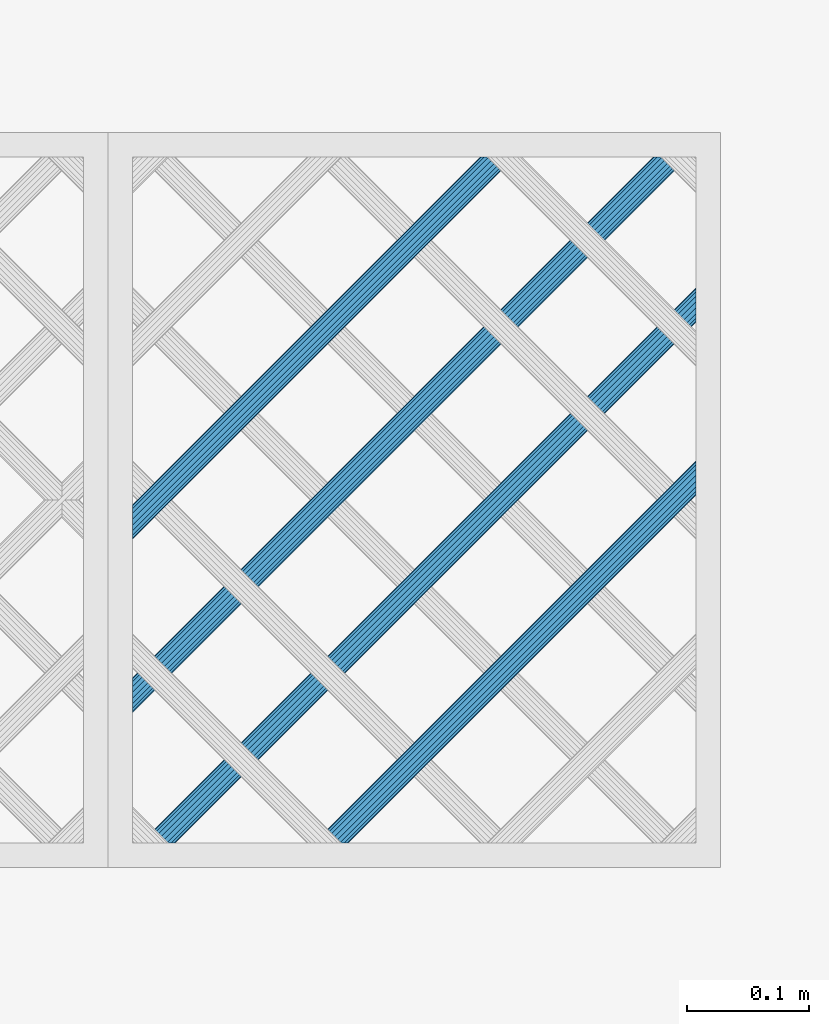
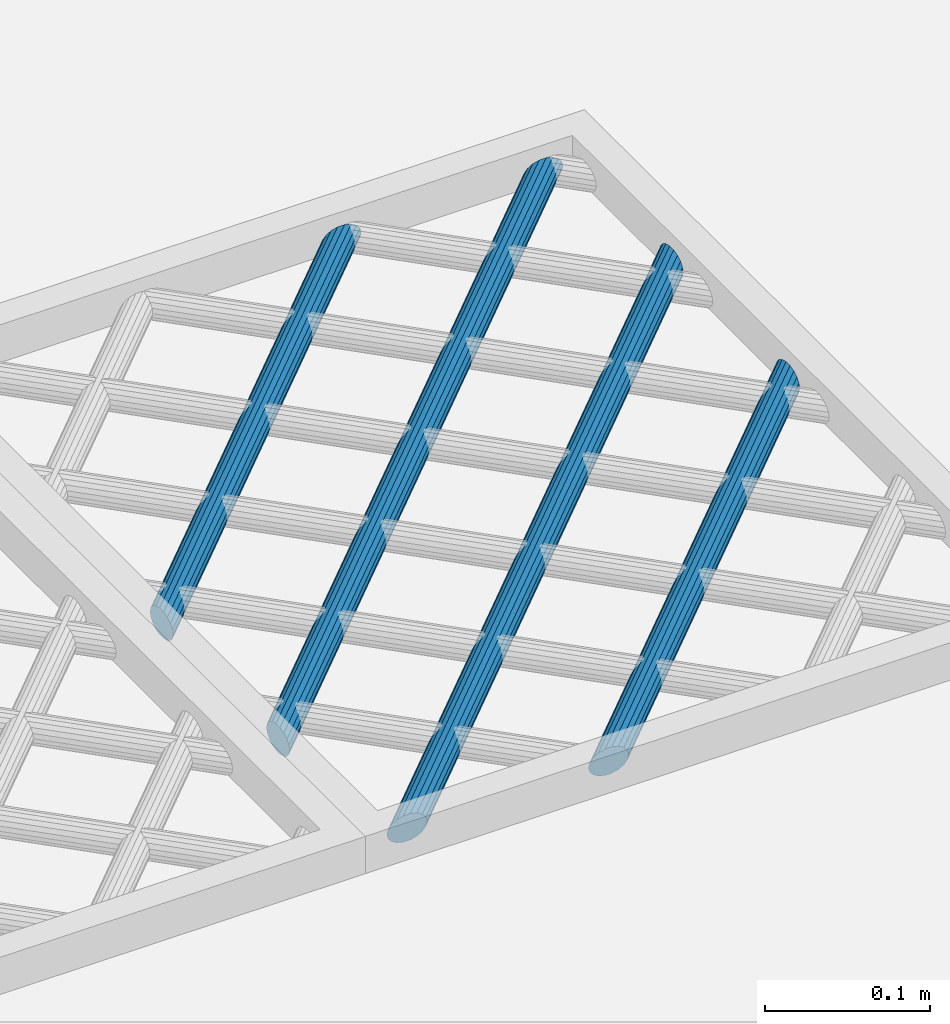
# One storey, part 76 of 133: 4 members, 1 element without a shape of its own.
"""IFC2X3 building model written with IfcOpenShell, lengths in centimetres."""

import ifcopenshell
import ifcopenshell.guid

model = None  # the IFC model being written
_history = None  # IfcOwnerHistory: only IFC2X3 demands one
_inside = {}  # id of a spatial element -> (the spatial element, [elements in it])
_under = {}  # id of a project, library or spatial element -> (it, [spatial elements below it])
_declared = {}  # id of a project -> (the project, [libraries it declares])
_typed = {}  # id of a type object -> (the type object, [elements of that type])
_made_of = {}  # id of a material, layer set ... -> (it, [elements and type objects made of it])


def new_model(schema):
    """Start an empty IFC model of exactly this schema.

    Asked for "IFC4X3", IfcOpenShell would pick the latest addendum, in which some entities
    have other attributes; the version numbers below select the first issue.
    IFC2X3 requires an IfcOwnerHistory on every rooted entity: one is made here for all.
    """
    global model, _history
    if schema == "IFC4X3":
        model = ifcopenshell.file(schema_version=(4, 3, 0, 0))
    else:
        model = ifcopenshell.file(schema=schema)
    _inside.clear()
    _under.clear()
    _declared.clear()
    _typed.clear()
    _made_of.clear()
    _history = None
    if model.schema == "IFC2X3":
        org = make("IfcOrganization", Name="unknown")
        user = make(
            "IfcPersonAndOrganization",
            ThePerson=make("IfcPerson", FamilyName="unknown"),
            TheOrganization=org,
        )
        app = make(
            "IfcApplication",
            ApplicationDeveloper=org,
            Version="unknown",
            ApplicationFullName="unknown",
            ApplicationIdentifier="unknown",
        )
        _history = make(
            "IfcOwnerHistory",
            OwningUser=user,
            OwningApplication=app,
            ChangeAction="ADDED",
            CreationDate=0,
        )
    return model


def make(cls, **values):
    """One entity of the class cls with the attributes given. An attribute that is None is left unset."""
    return model.create_entity(
        cls, **{name: value for name, value in values.items() if value is not None}
    )


def entity(cls, *values):
    """Any entity or typed value of the class cls, its attributes in the order of the schema. None: left unset."""
    e = model.create_entity(cls)
    for i, value in enumerate(values):
        if value is not None:
            e[i] = value
    return e


def rooted(cls, **values):
    """An entity with a GlobalId (a new one), such as an element, a storey or a relation."""
    return make(cls, GlobalId=ifcopenshell.guid.new(), OwnerHistory=_history, **values)


def si_unit(unit_type, name, prefix=None):
    """IfcSIUnit, for example si_unit("LENGTHUNIT", "METRE", prefix="MILLI")."""
    return make("IfcSIUnit", UnitType=unit_type, Prefix=prefix, Name=name)


def converted_unit(unit_type, name, factor, base, dimensions=None, offset=None):
    """IfcConversionBasedUnit, such as the inch: factor (a typed value) times the base unit."""
    return make(
        "IfcConversionBasedUnit"
        if offset is None
        else "IfcConversionBasedUnitWithOffset",
        ConversionOffset=offset,
        Dimensions=None
        if dimensions is None
        else entity("IfcDimensionalExponents", *dimensions),
        UnitType=unit_type,
        Name=name,
        ConversionFactor=make(
            "IfcMeasureWithUnit", ValueComponent=factor, UnitComponent=base
        ),
    )


def assignment(units):
    """IfcUnitAssignment: the units of a project."""
    return None if units is None else make("IfcUnitAssignment", Units=units)


def point(xyz):
    """IfcCartesianPoint."""
    return None if xyz is None else make("IfcCartesianPoint", Coordinates=xyz)


def direction(xyz):
    """IfcDirection."""
    return None if xyz is None else make("IfcDirection", DirectionRatios=xyz)


def frame(location, z_axis=None, x_axis=None):
    """IfcAxis2Placement3D, a coordinate frame: its origin and axes. An axis left out is left unset."""
    return make(
        "IfcAxis2Placement3D",
        Location=point(location),
        Axis=direction(z_axis),
        RefDirection=direction(x_axis),
    )


def origin():
    """The frame at (0, 0, 0) with its axes left unset."""
    return frame((0.0, 0.0, 0.0))


def origin_with_axes():
    """The frame at (0, 0, 0) with the z axis (0, 0, 1) and the x axis (1, 0, 0) written out."""
    return frame((0.0, 0.0, 0.0), z_axis=(0.0, 0.0, 1.0), x_axis=(1.0, 0.0, 0.0))


def place(relative_to, where):
    """IfcLocalPlacement: puts the frame where relative to a parent placement (None: the world)."""
    return make(
        "IfcLocalPlacement", PlacementRelTo=relative_to, RelativePlacement=where
    )


def context(
    kind, dimensions, precision=None, world=None, true_north=None, identifier=None
):
    """IfcGeometricRepresentationContext, for example the 3D "Model" context."""
    return make(
        "IfcGeometricRepresentationContext",
        ContextIdentifier=identifier,
        ContextType=kind,
        CoordinateSpaceDimension=dimensions,
        Precision=precision,
        WorldCoordinateSystem=world,
        TrueNorth=true_north,
    )


def subcontext(parent, identifier, kind, view, scale=None):
    """IfcGeometricRepresentationSubContext, for example "Body" below "Model"."""
    return make(
        "IfcGeometricRepresentationSubContext",
        ContextIdentifier=identifier,
        ContextType=kind,
        ParentContext=parent,
        TargetScale=scale,
        TargetView=view,
    )


def project(units=None, contexts=None):
    """IfcProject with its units and contexts."""
    return rooted(
        "IfcProject",
        Name="project",
        RepresentationContexts=contexts,
        UnitsInContext=assignment(units),
    )


def spatial(cls, under=None, at=None, **own):
    """A site, building, storey or space (cls), placed at a placement, below another one or the project."""
    s = rooted(cls, ObjectPlacement=at, **own)
    if under is not None:
        _under.setdefault(under.id(), (under, []))[1].append(s)
    return s


def faces_of(points, faces, orient=None, outer=None):
    """IfcFace entities. A face is a list of loops; a loop is a list of indices into points, from 0.

    orient and outer hold one flag for each loop. By default every Orientation is true, the
    first loop of a face is its IfcFaceOuterBound and the others are IfcFaceBound.
    """
    made = []
    for i, loops in enumerate(faces):
        bounds = []
        for j, loop in enumerate(loops):
            is_outer = j == 0 if outer is None else outer[i][j]
            bounds.append(
                make(
                    "IfcFaceOuterBound" if is_outer else "IfcFaceBound",
                    Bound=make("IfcPolyLoop", Polygon=[points[k] for k in loop]),
                    Orientation=True if orient is None else orient[i][j],
                )
            )
        made.append(make("IfcFace", Bounds=bounds))
    return made


def faceted_brep(points, faces, orient=None, outer=None, voids=None):
    """IfcFacetedBrep: a solid bounded by flat faces; with voids (closed shells), ...WithVoids."""
    shared = [point(p) for p in points]
    hull = make("IfcClosedShell", CfsFaces=faces_of(shared, faces, orient, outer))
    if voids is None:
        return make("IfcFacetedBrep", Outer=hull)
    return make(
        "IfcFacetedBrepWithVoids",
        Outer=hull,
        Voids=[
            make(cls, CfsFaces=faces_of(shared, fs, o, b)) for cls, fs, o, b in voids
        ],
    )


def shape(context_of_items, identifier, shape_type, items):
    """IfcShapeRepresentation: the items that make up one representation, for example the "Body"."""
    return make(
        "IfcShapeRepresentation",
        ContextOfItems=context_of_items,
        RepresentationIdentifier=identifier,
        RepresentationType=shape_type,
        Items=items,
    )


def material(Name=None, Category=None):
    """IfcMaterial."""
    return make("IfcMaterial", Name=Name, Category=Category)


def made_of(thing, what):
    """Note that an element or type object is made of a material, layer set ...; save() writes the relation."""
    if what is not None:
        _made_of.setdefault(what.id(), (what, []))[1].append(thing)
    return thing


def type_object(cls, material=None, **own):
    """A type object (cls), such as IfcWallType, which elements share."""
    return made_of(rooted(cls, **own), material)


def element(
    cls,
    number,
    at=None,
    inside=None,
    cuts=None,
    type_object=None,
    material=None,
    context=None,
    identifier="Body",
    shape_type=None,
    held_by="IfcProductDefinitionShape",
    body=None,
    shapes=None,
    **own,
):
    """One element of the class cls, such as IfcWall. Its Tag is "e" and its number.

    at: its placement. inside: the storey or other place that contains it. cuts: it is an
    opening in that element (IfcRelVoidsElement). A single representation is given by context,
    identifier, shape_type and body (its items); several are given by shapes. held_by: the class
    of the entity that holds the representations. save() writes the other relations.
    """
    e = rooted(cls, Tag="e%d" % number, ObjectPlacement=at, **own)
    if body is not None:
        shapes = [shape(context, identifier, shape_type, body)]
    if shapes is not None:
        e.Representation = make(held_by, Representations=shapes)
    if inside is not None:
        _inside.setdefault(inside.id(), (inside, []))[1].append(e)
    if cuts is not None:
        rooted(
            "IfcRelVoidsElement", RelatingBuildingElement=cuts, RelatedOpeningElement=e
        )
    if type_object is not None:
        _typed.setdefault(type_object.id(), (type_object, []))[1].append(e)
    return made_of(e, material)


def aggregate(whole, parts):
    """IfcRelAggregates: a whole, such as a stair, and the parts it consists of."""
    return rooted("IfcRelAggregates", RelatingObject=whole, RelatedObjects=parts)


def save(model, path):
    """Write the relations noted so far, then the file.

    IfcRelAggregates (storeys below a building ...), IfcRelContainedInSpatialStructure (elements
    in a storey), IfcRelDefinesByType, IfcRelAssociatesMaterial and IfcRelDeclares: one each for
    every whole, place, type object, material and project.
    """
    for whole, parts in _under.values():
        aggregate(whole, parts)
    for where, things in _inside.values():
        rooted(
            "IfcRelContainedInSpatialStructure",
            RelatedElements=things,
            RelatingStructure=where,
        )
    for kind, things in _typed.values():
        rooted("IfcRelDefinesByType", RelatedObjects=things, RelatingType=kind)
    for what, things in _made_of.values():
        rooted("IfcRelAssociatesMaterial", RelatedObjects=things, RelatingMaterial=what)
    for by, libraries in _declared.values():
        rooted("IfcRelDeclares", RelatingContext=by, RelatedDefinitions=libraries)
    model.write(path)


model = new_model("IFC2X3")

# Units and contexts
model_context = context("Model", 3, precision=0.0001, world=origin(), true_north=direction((0.225632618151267, 0.974212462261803, 0.0)))
body_context = subcontext(model_context, "Body", "Model", "MODEL_VIEW")
ifc_project = project(units=[si_unit("LENGTHUNIT", "METRE", prefix="CENTI"), si_unit("AREAUNIT", "SQUARE_METRE", prefix="CENTI"), si_unit("VOLUMEUNIT", "CUBIC_METRE", prefix="CENTI"), converted_unit("PLANEANGLEUNIT", "DEGREE", entity("IfcRatioMeasure", 0.0174532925), si_unit("PLANEANGLEUNIT", "RADIAN"), dimensions=[0, 0, 0, 0, 0, 0, 0])], contexts=[model_context])

# Site, building, storey
site_placement = place(None, origin_with_axes())
site = spatial("IfcSite", under=ifc_project, at=site_placement, Name="Default Site", CompositionType="ELEMENT")
building_placement = place(site_placement, origin_with_axes())
building = spatial("IfcBuilding", under=site, at=building_placement, Name="Default Building", CompositionType="ELEMENT")
storey_placement = place(building_placement, frame((0.0, 0.0, -291.400371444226), z_axis=(0.0, 0.0, 1.0), x_axis=(1.0, 0.0, 0.0)))
storey = spatial("IfcBuildingStorey", under=building, at=storey_placement, Name="Rez-de-Jardin", CompositionType="ELEMENT", Elevation=-291.400371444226)

# Assembly, members
building_element_proxy_type = type_object("IfcBuildingElementProxyType", Name="Type Object", PredefinedType="NOTDEFINED")
assembly_placement = place(storey_placement, frame((23.728219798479, 1298.33524038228, 113.0), z_axis=(0.0, 1.0, -2.38697950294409e-15), x_axis=(1.0, 0.0, 0.0)))
assembly = element("IfcElementAssembly", 1, at=assembly_placement, inside=storey, type_object=building_element_proxy_type, Name="Panneau 326485", ObjectType="Precast panel", PredefinedType="USERDEFINED")
ifc_material = material(Name="Aluminium satiné")
member_1_placement = place(assembly_placement, frame((33.1157237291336, 0.342020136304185, 57.9999983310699), z_axis=(1.16937776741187e-15, -1.43218081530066e-15, 1.0), x_axis=(0.632457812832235, -0.774594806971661, -1.84894192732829e-15)))
member_1 = element("IfcMember", 2, at=member_1_placement, material=ifc_material, Name="4294966882", context=body_context, shape_type="Brep", body=[
    faceted_brep([(5.55111512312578e-15, 5.55111512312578e-15, 5.55111512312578e-14), (-0.388290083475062, 5.55111512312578e-15, 5.4793225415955e-14), (-0.799166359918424, -0.150246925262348, 5.40335390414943e-14), (-1.18307325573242, -0.432621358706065, 5.33237174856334e-14), (-1.49370567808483, -0.813064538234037, 5.27493761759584e-14), (-1.69359804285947, -1.24569095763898, 5.23797868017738e-14), (-1.75863665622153, -1.67831484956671, 5.22595341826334e-14), (-1.68098087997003, -2.05876033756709, 5.2403115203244e-14), (-1.46999321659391, -2.3411352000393, 5.27932191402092e-14), (-1.15112683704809, -2.49138695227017, 5.33827845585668e-14), (-0.762836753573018, -2.49138695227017, 5.41007103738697e-14), (-0.351960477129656, -2.34114002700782, 5.48603967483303e-14), (0.0319483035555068, -2.05876328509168, 5.55702217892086e-14), (0.342580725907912, -1.67832010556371, 5.61445630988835e-14), (0.542471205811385, -1.24569599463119, 5.65141489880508e-14), (0.607509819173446, -0.813072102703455, 5.66344016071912e-14), (0.529854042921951, -0.432626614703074, 5.64908205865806e-14), (0.318866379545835, -0.150251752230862, 5.61007166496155e-14), (-19.414455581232, -24.3183913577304, -31.2010079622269), (-19.149528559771, -24.5347046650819, -31.1157196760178), (-18.9165556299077, -24.7249274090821, -30.8701455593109), (-18.7436367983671, -24.8661158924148, -30.4939031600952), (-18.6516285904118, -24.9412407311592, -30.0323694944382), (-18.6516285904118, -24.9412407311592, -29.5412182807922), (-18.7436367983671, -24.8661158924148, -29.0796875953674), (-18.9165556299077, -24.7249274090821, -28.7034451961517), (-19.149528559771, -24.5347046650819, -28.4578680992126), (-19.414455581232, -24.3183913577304, -28.3725827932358), (-19.679382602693, -24.1020780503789, -28.4578680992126), (-19.9123555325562, -23.9118553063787, -28.7034451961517), (-20.0852743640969, -23.770666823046, -29.0796875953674), (-20.1772825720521, -23.6955419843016, -29.5412182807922), (-20.1772825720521, -23.6955419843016, -30.0323694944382), (-20.0852743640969, -23.770666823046, -30.4939031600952), (-19.9123555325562, -23.9118553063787, -30.8701455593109), (-19.6793826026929, -24.1020780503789, -31.1157196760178), (0.318866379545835, -0.150251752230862, 5.55111512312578e-14), (0.529853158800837, -0.432627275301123, 1.07086518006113e-06), (-19.1495278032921, -24.5347040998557, -31.1157205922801), (-19.4144551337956, -24.3183910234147, -31.2010085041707), (0.529854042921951, -0.432626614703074, 5.55111512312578e-14), (0.607510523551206, -0.813071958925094, -5.56859133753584e-07), (-18.9165543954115, -24.7249271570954, -30.8701465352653), (-19.1495266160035, -24.534704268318, -31.1157212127), (0.607509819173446, -0.813072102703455, 5.55111512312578e-14), (0.542470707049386, -1.24569591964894, 2.57365122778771e-07), (-18.7436368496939, -24.8661158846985, -30.4939031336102), (-18.9165551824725, -24.7249274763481, -30.8701457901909), (0.542471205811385, -1.24569599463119, 5.55111512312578e-14), (0.342580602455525, -1.67832004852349, 3.38954203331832e-08), (-18.6516278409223, -24.9412410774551, -30.0323697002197), (-18.743636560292, -24.8661160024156, -30.4939032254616), (0.342580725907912, -1.67832010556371, 5.55111512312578e-14), (0.0319483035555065, -2.05876328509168, 5.55111512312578e-14), (0.0319483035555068, -2.05876328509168, 5.55111512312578e-14), (-0.351960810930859, -2.34113957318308, -1.40415047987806e-07), (-18.7436372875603, -24.8661152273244, -29.0796878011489), (-18.6516291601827, -24.9412399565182, -29.5412185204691), (-0.351960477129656, -2.34114002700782, 5.55111512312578e-14), (-0.762836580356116, -2.4913874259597, 2.57365121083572e-07), (-18.9165556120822, -24.7249274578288, -28.7034451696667), (-18.7436369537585, -24.8661154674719, -29.0796878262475), (-0.762836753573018, -2.49138695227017, 5.55111512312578e-14), (-1.15112683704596, -2.49138623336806, -5.56859133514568e-07), (-19.1495285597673, -24.5347034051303, -28.457869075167), (-18.9165556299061, -24.7249268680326, -28.7034456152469), (-1.15112683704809, -2.49138695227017, 5.55111512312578e-14), (-1.46999368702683, -2.34113619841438, 1.07086517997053e-06), (-19.414455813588, -24.3183918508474, -28.3725822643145), (-19.1495283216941, -24.5347041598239, -28.4578686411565), (-1.46999321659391, -2.3411352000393, 5.55111512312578e-14), (-1.68097999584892, -2.05875967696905, -1.07086506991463e-06), (-19.6793812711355, -24.1020770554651, -28.4578697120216), (-19.4144551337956, -24.3183910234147, -28.3725833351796), (-1.68098087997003, -2.05876033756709, 5.55111512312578e-14), (-1.75863736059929, -1.67831499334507, 5.56859245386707e-07), (-19.9123557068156, -23.9118553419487, -28.7034450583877), (-19.6793820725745, -24.1020779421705, -28.4578685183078), (-1.75863665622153, -1.67831484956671, 5.55111512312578e-14), (-1.69359754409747, -1.24569103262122, -2.57365011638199e-07), (-20.0852734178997, -23.7706669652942, -29.0796880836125), (-19.912355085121, -23.9118553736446, -28.7034454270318), (-1.69359804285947, -1.24569095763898, 5.55111512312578e-14), (-1.49370618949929, -0.813064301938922, 1.40415160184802e-07), (-20.1772822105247, -23.6955421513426, -29.541218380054), (-20.0852741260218, -23.7706669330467, -29.0796876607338), (-1.49370567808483, -0.813064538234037, 5.55111512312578e-14), (-1.18307325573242, -0.432621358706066, 5.55111512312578e-14), (-1.18307325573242, -0.432621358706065, 5.55111512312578e-14), (-0.799166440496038, -0.150246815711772, -3.38953106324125e-08), (-20.0852746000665, -23.7706665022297, -30.493903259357), (-20.177283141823, -23.6955412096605, -30.0323697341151), (-0.799166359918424, -0.150246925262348, 5.55111512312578e-14), (-0.388290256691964, 4.73689531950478e-07, -2.57365009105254e-07), (-19.9123558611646, -23.9118544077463, -30.870146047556), (-20.0852745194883, -23.7706663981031, -30.4939033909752), (-0.388290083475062, 5.55111512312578e-15, 5.55111512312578e-14), (-2.12407422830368e-12, -7.18902105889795e-07, 5.56859244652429e-07), (-19.6793826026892, -24.1020767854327, -31.1157206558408), (-19.9123555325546, -23.9118547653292, -30.8701459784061), (0.31886684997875, -0.150250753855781, -1.07086507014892e-06), (-19.4144548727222, -24.3183898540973, -31.2010095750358), (-19.6793817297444, -24.102076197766, -31.1157216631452)], [[[0, 1, 2, 3, 4, 5, 6, 7, 8, 9, 10, 11, 12, 13, 14, 15, 16, 17]], [[18, 19, 20, 21, 22, 23, 24, 25, 26, 27, 28, 29, 30, 31, 32, 33, 34, 35]], [[36, 37, 38, 39]], [[40, 41, 42, 43]], [[44, 45, 46, 47]], [[48, 49, 50, 51]], [[52, 53, 23, 22]], [[54, 55, 56, 57]], [[58, 59, 60, 61]], [[62, 63, 64, 65]], [[66, 67, 68, 69]], [[70, 71, 72, 73]], [[74, 75, 76, 77]], [[78, 79, 80, 81]], [[82, 83, 84, 85]], [[86, 87, 32, 31]], [[88, 89, 90, 91]], [[92, 93, 94, 95]], [[96, 97, 98, 99]], [[0, 100, 101, 102]]]),
])
member_2_placement = place(assembly_placement, frame((47.2578585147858, 0.342020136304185, 57.9999983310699), z_axis=(1.16937776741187e-15, -1.43218081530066e-15, 1.0), x_axis=(0.632457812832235, -0.774594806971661, -1.84894192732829e-15)))
member_2 = element("IfcMember", 3, at=member_2_placement, material=ifc_material, Name="4294966881", context=body_context, shape_type="Brep", body=[
    faceted_brep([(5.55111512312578e-15, 1.66533453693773e-14, 7.7715611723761e-14), (-0.388290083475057, 1.66533453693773e-14, 7.69976859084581e-14), (-0.799166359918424, -0.150246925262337, 7.62379995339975e-14), (-1.18307325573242, -0.432621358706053, 7.55281779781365e-14), (-1.49370567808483, -0.813064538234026, 7.49538366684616e-14), (-1.6935961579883, -1.24568864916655, 7.45842507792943e-14), (-1.75863665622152, -1.6783148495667, 7.44639946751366e-14), (-1.68097899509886, -2.05875802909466, 7.46075791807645e-14), (-1.46999321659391, -2.3411352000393, 7.49976796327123e-14), (-1.15112495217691, -2.49138464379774, 7.55872485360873e-14), (-0.762836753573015, -2.49138695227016, 7.63051708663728e-14), (-0.351958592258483, -2.34113771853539, 7.70648607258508e-14), (0.0319483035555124, -2.05876328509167, 7.77746822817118e-14), (0.342580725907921, -1.6783201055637, 7.83490235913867e-14), (0.54247120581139, -1.24569599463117, 7.8718609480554e-14), (0.607509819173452, -0.813072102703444, 7.88388620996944e-14), (0.529854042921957, -0.432626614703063, 7.86952810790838e-14), (0.318868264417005, -0.150249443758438, 7.8305180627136e-14), (-28.3587592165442, -35.2728155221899, -45.3431442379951), (-28.0938321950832, -35.4891288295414, -45.257855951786), (-27.8608592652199, -35.6793515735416, -45.0122803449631), (-27.6879404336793, -35.8205400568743, -44.6360379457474), (-27.595932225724, -35.8956648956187, -44.1745057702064), (-27.595932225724, -35.8956648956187, -43.6833545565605), (-27.6879404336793, -35.8205400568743, -43.2218238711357), (-27.8608592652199, -35.6793515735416, -42.8455799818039), (-28.0938321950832, -35.4891288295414, -42.6000043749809), (-28.3587592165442, -35.2728155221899, -42.5147175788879), (-28.6236862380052, -35.0565022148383, -42.6000043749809), (-28.8566591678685, -34.8662794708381, -42.8455799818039), (-29.0295779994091, -34.7250909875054, -43.2218238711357), (-29.1215862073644, -34.649966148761, -43.6833545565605), (-29.1215862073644, -34.649966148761, -44.1745057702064), (-29.0295779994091, -34.7250909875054, -44.6360379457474), (-28.8566591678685, -34.8662794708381, -45.0122803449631), (-28.6236862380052, -35.0565022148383, -45.257855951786), (0.318868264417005, -0.150249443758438, 7.7715611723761e-14), (0.529854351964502, -0.432626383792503, -3.74318415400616e-07), (-28.0938308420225, -35.4891278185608, -45.2578575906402), (-28.358758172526, -35.2728147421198, -45.3431455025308), (0.529854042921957, -0.432626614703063, 7.7715611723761e-14), (0.607510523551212, -0.813071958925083, -5.56859111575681e-07), (-27.8608580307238, -35.6793513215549, -45.0122813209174), (-28.0938309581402, -35.4891285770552, -45.2578569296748), (0.607509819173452, -0.813072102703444, 7.7715611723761e-14), (0.542470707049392, -1.24569591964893, 2.57365144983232e-07), (-27.6879404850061, -35.820540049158, -44.6360379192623), (-27.8608588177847, -35.6793516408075, -45.0122805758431), (0.54247120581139, -1.24569599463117, 7.7715611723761e-14), (0.342580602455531, -1.67832004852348, 3.38954431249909e-08), (-27.5959317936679, -35.8956650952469, -44.1745058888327), (-27.6879401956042, -35.820540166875, -44.6360380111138), (0.342580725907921, -1.6783201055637, 7.7715611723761e-14), (0.0319483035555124, -2.05876328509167, 7.7715611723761e-14), (-0.351958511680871, -2.34113782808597, 3.3895443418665e-08), (-27.6879407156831, -35.8205396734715, -43.221823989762), (-27.5959325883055, -35.8956644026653, -43.6833547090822), (-0.351958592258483, -2.34113771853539, 7.7715611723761e-14), (-0.762836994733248, -2.49138629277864, -3.58314950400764e-07), (-27.8608596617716, -35.6793504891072, -42.8455805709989), (-27.6879407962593, -35.8205390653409, -43.2218244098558), (-0.762836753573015, -2.49138695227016, 7.7715611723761e-14), (-1.15112495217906, -2.49138536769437, 5.60727997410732e-07), (-28.0938321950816, -35.4891282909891, -42.6000047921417), (-27.8608592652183, -35.6793510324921, -42.845580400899), (-1.15112495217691, -2.49138464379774, 7.7715611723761e-14), (-1.46999305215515, -2.34113485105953, -3.74318417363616e-07), (-28.3587588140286, -35.272814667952, -42.5147184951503), (-28.0938316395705, -35.4891276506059, -42.6000056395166), (-1.46999321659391, -2.3411352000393, 7.7715611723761e-14), (-1.68097930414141, -2.05875826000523, 3.74318572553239e-07), (-28.6236855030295, -35.0565016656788, -42.6000052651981), (-28.3587587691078, -35.2728151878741, -42.5147181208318), (-1.68097899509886, -2.05875802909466, 7.7715611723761e-14), (-1.75863594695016, -1.67831470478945, -5.60727843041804e-07), (-28.8566579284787, -34.8662792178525, -42.845580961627), (-28.6236850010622, -35.0565019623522, -42.6000053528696), (-1.75863665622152, -1.6783148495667, 7.7715611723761e-14), (-1.69359685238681, -1.24568854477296, 3.58315105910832e-07), (-29.0295776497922, -34.7250910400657, -43.2218240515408), (-28.8566587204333, -34.8662795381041, -42.8455802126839), (-1.6935961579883, -1.24568864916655, 7.7715611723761e-14), (-1.49370555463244, -0.813064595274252, -3.38952877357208e-08), (-29.1215855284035, -34.6499664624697, -43.6833547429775), (-29.0295774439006, -34.7250912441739, -43.2218240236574), (-1.49370567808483, -0.813064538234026, 7.7715611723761e-14), (-1.18307325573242, -0.432621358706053, 7.7715611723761e-14), (-0.799166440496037, -0.150246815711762, -3.38952880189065e-08), (-29.0295782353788, -34.7250906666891, -44.6360380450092), (-29.1215865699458, -34.6499656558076, -44.1745059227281), (-0.799166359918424, -0.150246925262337, 7.7715611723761e-14), (-0.388290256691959, 4.73689544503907e-07, -2.5736498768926e-07), (-28.8566594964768, -34.8662785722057, -45.0122808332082), (-29.0295781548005, -34.7250905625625, -44.6360381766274), (-0.388290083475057, 1.66533453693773e-14, 7.7715611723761e-14), (-2.12407422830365e-12, -7.18902094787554e-07, 5.56859266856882e-07), (-28.6236862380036, -35.0565016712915, -45.2578563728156), (-28.8566591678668, -34.8662789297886, -45.0122807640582), (0.318868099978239, -0.150249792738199, 3.74318570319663e-07), (-28.3587588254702, -35.2728146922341, -45.3431451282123), (-28.6236856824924, -35.0565010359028, -45.2578572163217)], [[[0, 1, 2, 3, 4, 5, 6, 7, 8, 9, 10, 11, 12, 13, 14, 15, 16, 17]], [[18, 19, 20, 21, 22, 23, 24, 25, 26, 27, 28, 29, 30, 31, 32, 33, 34, 35]], [[36, 37, 38, 39]], [[40, 41, 42, 43]], [[44, 45, 46, 47]], [[48, 49, 50, 51]], [[52, 53, 23, 22]], [[53, 54, 55, 56]], [[57, 58, 59, 60]], [[61, 62, 63, 64]], [[65, 66, 67, 68]], [[69, 70, 71, 72]], [[73, 74, 75, 76]], [[77, 78, 79, 80]], [[81, 82, 83, 84]], [[85, 86, 32, 31]], [[86, 87, 88, 89]], [[90, 91, 92, 93]], [[94, 95, 96, 97]], [[0, 98, 99, 100]]]),
])
member_3_placement = place(assembly_placement, frame((47.9999989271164, 0.3420201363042, 44.6000069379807), z_axis=(0.999999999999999, 0.0, 0.0), x_axis=(0.0, -0.774598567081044, -0.632453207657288)))
member_3 = element("IfcMember", 4, at=member_3_placement, material=ifc_material, Name="4294966880", context=body_context, shape_type="Brep", body=[
    faceted_brep([(-1.49880108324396e-13, 6.66133814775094e-14, 0.0), (-0.38828819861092, 6.66133814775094e-14, 0.0), (-0.799165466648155, -0.150251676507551, 0.0), (-1.18307068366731, -0.432628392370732, 0.0), (-1.49370084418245, -0.813073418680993, 0.0), (-1.69358875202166, -1.24569871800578, 0.0), (-1.75862479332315, -1.67832299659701, 0.0), (-1.68096675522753, -2.05876802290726, 0.0), (-1.46997929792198, -2.34114393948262, 0.0), (-1.15111014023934, -2.49139148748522, 0.0), (-0.762820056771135, -2.4913891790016, 0.0), (-0.351944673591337, -2.3411398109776, 0.0), (0.031960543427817, -2.05876309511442, 0.0), (0.342590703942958, -1.67831806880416, 0.0), (0.542478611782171, -1.24569276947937, 0.0), (0.6075165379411, -0.81306618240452, 0.0), (0.529856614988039, -0.432623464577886, 0.0), (0.318869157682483, -0.150247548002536, 0.0), (27.2074393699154, 32.7815926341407, -42.5147175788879), (27.4723676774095, 32.5652809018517, -42.600005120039), (27.7053417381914, 32.3750595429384, -42.845580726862), (27.8782614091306, 32.2338720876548, -43.2218242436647), (27.9702700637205, 32.158747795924, -43.6833556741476), (27.9702700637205, 32.158747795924, -44.1745068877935), (27.8782614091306, 32.2338720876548, -44.6360379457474), (27.7053417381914, 32.3750595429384, -45.0122816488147), (27.4723676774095, 32.5652809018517, -45.2578572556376), (27.2074393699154, 32.7815926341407, -45.3431446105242), (26.9425110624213, 32.9979043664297, -45.2578572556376), (26.7095370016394, 33.188125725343, -45.0122816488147), (26.5366173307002, 33.3293131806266, -44.6360379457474), (26.4446086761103, 33.4044374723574, -44.1745068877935), (26.4446086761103, 33.4044374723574, -43.6833556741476), (26.5366173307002, 33.3293131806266, -43.2218242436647), (26.7095370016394, 33.188125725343, -42.845580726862), (26.9425110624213, 32.9979043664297, -42.600005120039), (0.529856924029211, -0.432623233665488, 3.74318493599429e-07), (27.4723672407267, 32.5652805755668, -42.6000056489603), (27.207438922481, 32.7815922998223, -42.5147181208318), (0.607515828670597, -0.813066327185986, -5.60727920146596e-07), (27.705340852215, 32.3750593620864, -42.8455814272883), (27.4723667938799, 32.5652807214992, -42.6000058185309), (0.542479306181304, -1.24569287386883, 3.58315028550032e-07), (27.8782612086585, 32.2338721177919, -43.2218243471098), (27.7053415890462, 32.3750595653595, -42.845580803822), (0.342590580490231, -1.67831801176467, -3.38953650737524e-08), (27.9702696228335, 32.1587479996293, -43.6833557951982), (27.8782609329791, 32.2338723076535, -43.2218243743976), (0.0319605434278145, -2.05876309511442, 0.0), (-0.351944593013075, -2.34113992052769, -3.38953649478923e-08), (27.8782616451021, 32.2338717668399, -44.6360380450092), (27.9702702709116, 32.1587475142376, -44.1745069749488), (-0.762819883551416, -2.4913896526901, -2.57365066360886e-07), (27.7053418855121, 32.3750591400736, -45.0122818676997), (27.8782615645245, 32.2338716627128, -44.6360381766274), (-1.15111014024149, -2.49139076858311, 5.56859189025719e-07), (27.4723676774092, 32.5652809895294, -45.2578571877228), (27.7053417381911, 32.3750596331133, -45.0122815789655), (-1.46997913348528, -2.34114359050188, 3.7431849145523e-07), (27.2074390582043, 32.7815919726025, -45.3431453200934), (27.4723673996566, 32.5652803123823, -45.2578578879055), (-1.6809670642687, -2.05876825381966, -3.74318493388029e-07), (26.9425102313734, 32.9979037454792, -45.257858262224), (27.2074384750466, 32.7815919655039, -45.3431456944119), (-1.75862549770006, -1.67832314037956, -5.56859188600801e-07), (26.7095363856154, 33.1881255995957, -45.0122821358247), (26.9425104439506, 32.9979042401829, -45.257857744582), (-1.69358825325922, -1.24569879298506, 2.57365065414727e-07), (26.5366173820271, 33.3293131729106, -44.6360379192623), (26.709537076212, 33.1881257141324, -45.0122816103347), (-1.49370072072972, -0.813073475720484, 3.38953651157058e-08), (26.4446084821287, 33.4044375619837, -44.1745069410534), (26.5366170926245, 33.3293132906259, -44.6360380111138), (-1.18307068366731, -0.432628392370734, 0.0), (-0.799165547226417, -0.150251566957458, 3.38953650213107e-08), (26.5366175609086, 33.3293128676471, -43.2218243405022), (26.4446088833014, 33.404437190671, -43.6833557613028), (-0.388287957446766, -6.59490013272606e-07, -3.58315028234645e-07), (26.7095372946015, 33.1881249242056, -42.845581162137), (26.5366176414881, 33.3293123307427, -43.2218247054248), (-2.30920950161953e-12, 7.23896688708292e-07, 5.60727920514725e-07), (26.9425110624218, 32.9979041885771, -42.600005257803), (26.7095370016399, 33.1881255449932, -42.8455808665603), (0.318868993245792, -0.150247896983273, -3.74318491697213e-07), (27.2074389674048, 32.7815917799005, -42.5147184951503), (26.9425106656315, 32.9979035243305, -42.6000060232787)], [[[0, 1, 2, 3, 4, 5, 6, 7, 8, 9, 10, 11, 12, 13, 14, 15, 16, 17]], [[18, 19, 20, 21, 22, 23, 24, 25, 26, 27, 28, 29, 30, 31, 32, 33, 34, 35]], [[17, 36, 37, 38]], [[16, 39, 40, 41]], [[15, 42, 43, 44]], [[14, 45, 46, 47]], [[13, 48, 23, 22]], [[12, 49, 50, 51]], [[11, 52, 53, 54]], [[10, 55, 56, 57]], [[9, 58, 59, 60]], [[8, 61, 62, 63]], [[7, 64, 65, 66]], [[6, 67, 68, 69]], [[5, 70, 71, 72]], [[4, 73, 32, 31]], [[3, 74, 75, 76]], [[2, 77, 78, 79]], [[1, 80, 81, 82]], [[0, 83, 84, 85]]]),
])
member_4_placement = place(assembly_placement, frame((47.9999989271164, 0.342020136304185, 30.4578691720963), z_axis=(0.999999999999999, 0.0, 0.0), x_axis=(0.0, -0.774594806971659, -0.632457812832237)))
member_4 = element("IfcMember", 5, at=member_4_placement, material=ifc_material, Name="4294966879", context=body_context, shape_type="Brep", body=[
    faceted_brep([(4.16333634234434e-14, -7.49400541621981e-14, 1.11022302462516e-14), (-0.388290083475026, -7.49400541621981e-14, 1.11022302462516e-14), (-0.799166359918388, -0.150246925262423, 1.11022302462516e-14), (-1.18307514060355, -0.432623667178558, 1.11022302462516e-14), (-1.49370756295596, -0.813066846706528, 1.11022302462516e-14), (-1.69359804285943, -1.24569095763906, 1.11022302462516e-14), (-1.7586366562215, -1.67831484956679, 1.11022302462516e-14), (-1.68098087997, -2.05876033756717, 1.11022302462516e-14), (-1.46999321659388, -2.34113520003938, 1.11022302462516e-14), (-1.15112683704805, -2.49138695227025, 1.11022302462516e-14), (-0.762836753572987, -2.49138695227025, 1.11022302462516e-14), (-0.351960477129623, -2.34114002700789, 1.11022302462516e-14), (0.0319464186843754, -2.05876559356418, 1.11022302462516e-14), (0.342578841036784, -1.67832241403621, 1.11022302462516e-14), (0.542471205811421, -1.24569599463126, 1.11022302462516e-14), (0.607509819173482, -0.813072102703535, 1.11022302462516e-14), (0.529854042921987, -0.432626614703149, 1.11022302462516e-14), (0.318866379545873, -0.15025175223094, 1.11022302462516e-14), (18.263328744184, 21.8270044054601, -28.3725813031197), (18.528255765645, 21.6106910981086, -28.4578695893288), (18.7612286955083, 21.4204683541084, -28.7034451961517), (18.9341475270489, 21.2792798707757, -29.0796890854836), (19.0261557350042, 21.2041550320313, -29.5412197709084), (19.0261557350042, 21.2041550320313, -30.0323709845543), (18.9341475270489, 21.2792798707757, -30.4939016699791), (18.7612286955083, 21.4204683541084, -30.8701455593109), (18.528255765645, 21.6106910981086, -31.1157211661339), (18.263328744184, 21.8270044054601, -31.201009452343), (17.9984017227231, 22.0433177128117, -31.1157211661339), (17.7654287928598, 22.2335404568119, -30.8701455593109), (17.5925099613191, 22.3747289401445, -30.4939016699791), (17.5005017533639, 22.4498537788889, -30.0323709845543), (17.5005017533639, 22.4498537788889, -29.5412197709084), (17.5925099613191, 22.3747289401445, -29.0796890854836), (17.7654287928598, 22.2335404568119, -28.7034451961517), (17.9984017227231, 22.0433177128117, -28.4578695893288), (0.529853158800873, -0.432627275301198, -1.07086511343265e-06), (18.5282550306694, 21.6106905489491, -28.4578704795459), (18.2633277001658, 21.8270036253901, -28.3725825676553), (0.607510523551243, -0.813071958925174, 5.56859200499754e-07), (18.7612288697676, 21.4204683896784, -28.7034450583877), (18.5282559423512, 21.610691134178, -28.4578694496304), (0.542470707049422, -1.24569591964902, -2.57365056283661e-07), (18.934147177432, 21.279279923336, -29.0796892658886), (18.7612282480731, 21.4204684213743, -28.7034454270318), (0.342579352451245, -1.67832265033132, 1.40415114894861e-07), (19.0261556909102, 21.2041550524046, -29.5412197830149), (18.9341476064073, 21.2792798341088, -29.0796890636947), (0.0319464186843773, -2.05876559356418, 1.11022302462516e-14), (-0.35196039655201, -2.34114013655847, -3.38953548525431e-08), (18.934147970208, 21.2792792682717, -30.4939018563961), (19.0261560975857, 21.2041545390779, -30.0323711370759), (-0.762836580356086, -2.49138742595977, -2.57365053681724e-07), (18.7612290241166, 21.420467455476, -30.870146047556), (18.9341478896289, 21.2792788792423, -30.4939022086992), (-1.15112683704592, -2.49138623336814, 5.56859200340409e-07), (18.5282557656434, 21.6106905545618, -31.1157215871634), (18.7612286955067, 21.4204678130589, -30.8701459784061), (-1.4699936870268, -2.34113619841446, -1.07086511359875e-06), (18.2633283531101, 21.8270035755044, -31.2010103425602), (18.5282552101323, 21.6106899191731, -31.1157224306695), (-1.68097999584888, -2.05875967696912, 1.07086513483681e-06), (17.998401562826, 22.0433175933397, -31.1157213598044), (18.2633288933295, 21.8270045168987, -31.201009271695), (-1.75863736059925, -1.67831499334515, -5.56859176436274e-07), (17.7654275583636, 22.2335402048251, -30.8701465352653), (17.9984004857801, 22.0433174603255, -31.1157221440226), (-1.69359754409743, -1.2456910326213, 2.57365077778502e-07), (17.5925094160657, 22.3747290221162, -30.4939019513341), (17.7654283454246, 22.2335405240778, -30.8701457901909), (-1.49370743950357, -0.813066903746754, 3.38953762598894e-08), (17.5005013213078, 22.4498539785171, -30.0323711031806), (17.5925094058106, 22.374729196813, -30.4939018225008), (-0.799166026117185, -0.150247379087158, -1.40415092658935e-07), (17.592510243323, 22.3747285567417, -29.0796892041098), (17.5005021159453, 22.4498532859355, -29.54121992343), (-0.388290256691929, 4.73689454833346e-07, 2.57365077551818e-07), (17.7654287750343, 22.2335405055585, -28.7034451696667), (17.592509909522, 22.3747290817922, -29.0796890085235), (-2.0879919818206e-12, -7.18902186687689e-07, -5.56859178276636e-07), (17.9984017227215, 22.0433171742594, -28.4578700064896), (17.7654287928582, 22.2335399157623, -28.7034456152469), (0.318866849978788, -0.150250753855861, 1.07086513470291e-06), (18.2633286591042, 21.8270042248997, -28.3725814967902), (17.998401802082, 22.043317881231, -28.4578694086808)], [[[0, 1, 2, 3, 4, 5, 6, 7, 8, 9, 10, 11, 12, 13, 14, 15, 16, 17]], [[18, 19, 20, 21, 22, 23, 24, 25, 26, 27, 28, 29, 30, 31, 32, 33, 34, 35]], [[17, 36, 37, 38]], [[16, 39, 40, 41]], [[15, 42, 43, 44]], [[14, 45, 46, 47]], [[13, 48, 23, 22]], [[12, 49, 50, 51]], [[11, 52, 53, 54]], [[10, 55, 56, 57]], [[9, 58, 59, 60]], [[8, 61, 62, 63]], [[7, 64, 65, 66]], [[6, 67, 68, 69]], [[5, 70, 71, 72]], [[4, 3, 32, 31]], [[3, 73, 74, 75]], [[2, 76, 77, 78]], [[1, 79, 80, 81]], [[0, 82, 83, 84]]]),
])
aggregate(assembly, [member_1, member_2, member_3, member_4])

save(model, "model.ifc")
